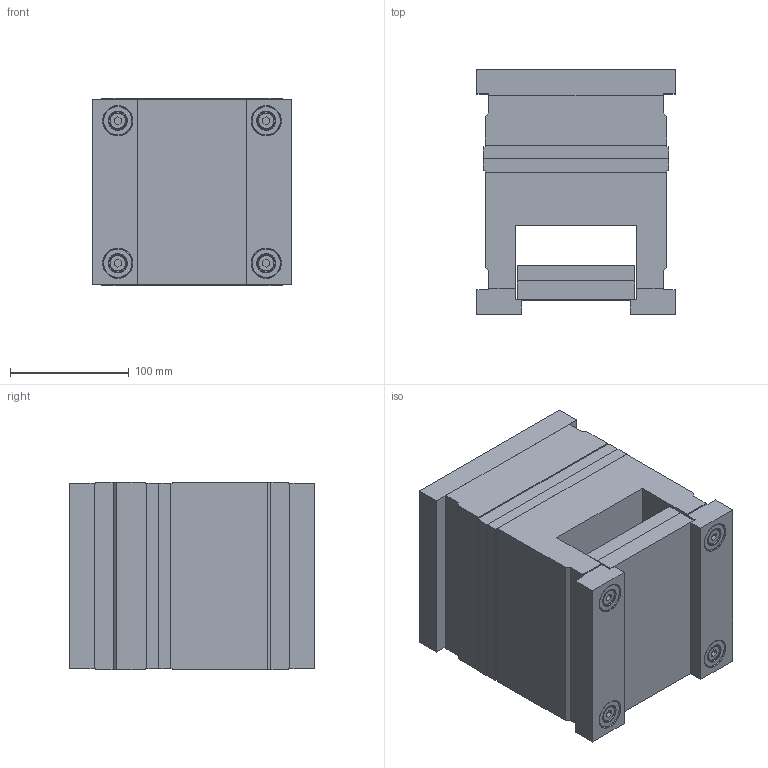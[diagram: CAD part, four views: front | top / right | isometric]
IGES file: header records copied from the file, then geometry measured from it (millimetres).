
Start section: SolidWorks IGES FILE using analytic representation for surfaces
Global section: file name: C:\Documents and Settings\K.P\My Documents\Mechanical\ALMO\CATL_EUR\RECT\1561.IGS; native system: SolidWorks 2001Plus by SolidWorks Corporation; preprocessor: Version 5.3; author: Pavel; date: 020709.091648; units: millimetre
Bounding box: 167 x 206 x 158 mm (x, y, z)
Surface area: 442589.2 mm2 (no closed solid volume)
Topology: 0 solids, 0 shells, 706 faces, 10312 edges, 10304 vertices
Faces by surface type: revolution 452, bspline 254
